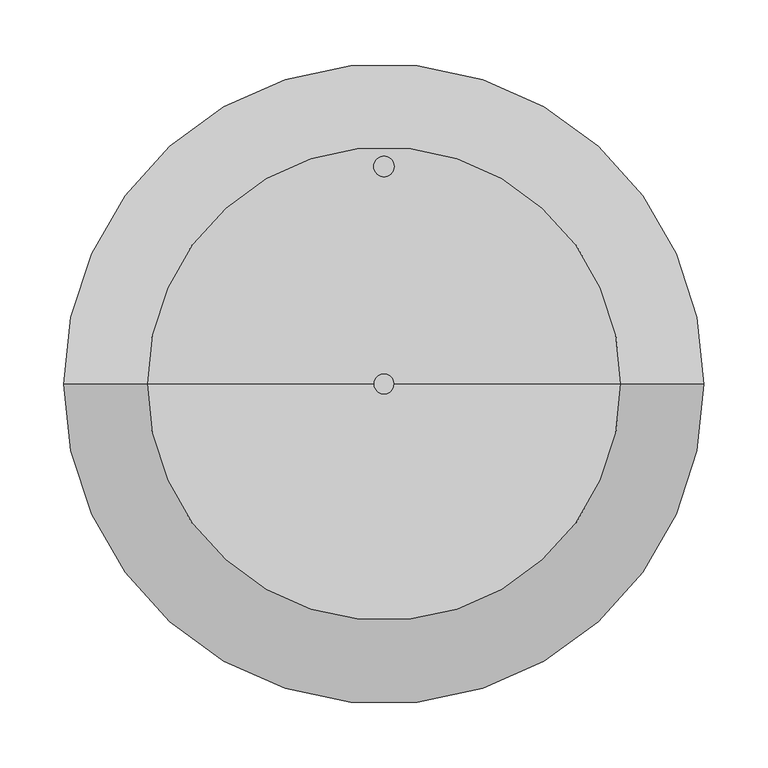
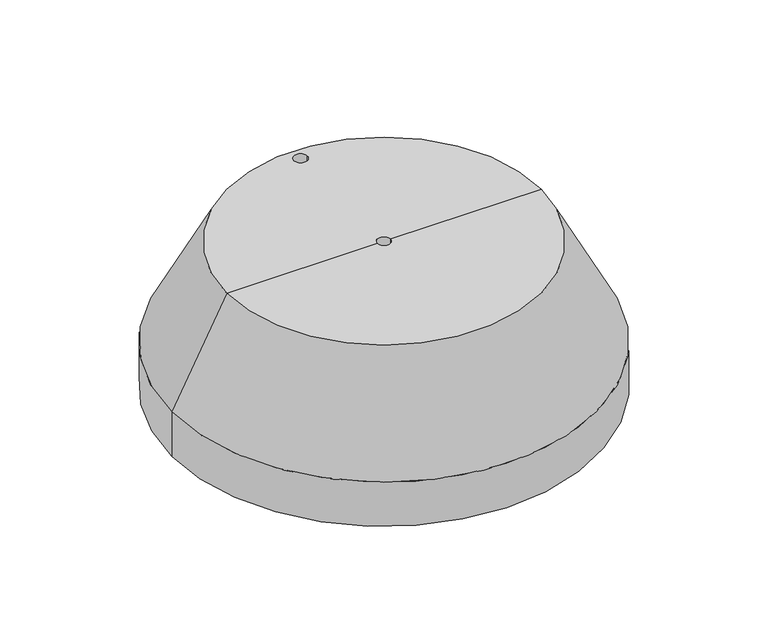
"""IFC4 building model written with IfcOpenShell, lengths in millimetres: proxy geometry, КНС_ОсновниеБетонное_DKC : NL0500_Бетон_40кг."""

from ifc_helpers import new_model, si_unit, frame, origin, origin_with_axes, place, context, project, spatial, polyline, circle_curve, source, transform, mapped, element, save
from ifc_brep_helpers import plane_surface, cylinder_surface, revolved_surface, advanced_brep


def security_devices_d693c095(model_context):
    return source(origin(), model_context, "Body", "AdvancedBrep", [
        advanced_brep(
        [(-250.0, 0.0, 55.0), (250.0, 0.0, 55.0), (250.0, 0.0, 0.0), (-250.0, 0.0, 0.0), (-185.0, 0.0, 180.0), (185.0, 0.0, 180.0), (-8.0, 0.0, 180.0), (8.0, 0.0, 180.0), (8.0, 170.0, 180.0), (-8.0, 170.0, 180.0), (0.0, 0.0, 0.0), (-8.0, 0.0, 55.0), (8.0, 0.0, 55.0), (-8.0, 170.0, 55.0), (8.0, 170.0, 55.0)],
        [
            (0, 1, circle_curve(frame((0.0, 0.0, 55.0), z_axis=(0.0, 0.0, -1.0), x_axis=(1.0, 0.0, 0.0)), 250.0)),
            (1, 2),
            (2, 3, circle_curve(origin_with_axes(), 250.0)),
            (3, 0),
            (1, 0, circle_curve(frame((0.0, 0.0, 55.0), z_axis=(0.0, 0.0, -1.0), x_axis=(1.0, 0.0, 0.0)), 250.0)),
            (3, 2, circle_curve(origin_with_axes(), 250.0)),
            (0, 4),
            (4, 5, circle_curve(frame((0.0, 0.0, 180.0), z_axis=(0.0, 0.0, -1.0), x_axis=(1.0, 0.0, 0.0)), 185.0)),
            (5, 1),
            (5, 4, circle_curve(frame((0.0, 0.0, 180.0), z_axis=(0.0, 0.0, -1.0), x_axis=(1.0, 0.0, 0.0)), 185.0)),
            (4, 6),
            (6, 7, circle_curve(frame((0.0, 0.0, 180.0), z_axis=(0.0, 0.0, -1.0), x_axis=(1.0, 0.0, 0.0)), 8.0)),
            (7, 5),
            (8, 9, circle_curve(frame((0.0, 170.0, 180.0), z_axis=(0.0, 0.0, -1.0), x_axis=(1.0, 0.0, 0.0)), 8.0)),
            (9, 8, circle_curve(frame((0.0, 170.0, 180.0), z_axis=(0.0, 0.0, -1.0), x_axis=(1.0, 0.0, 0.0)), 8.0)),
            (7, 6, circle_curve(frame((0.0, 0.0, 180.0), z_axis=(0.0, 0.0, -1.0), x_axis=(1.0, 0.0, 0.0)), 8.0)),
            (2, 10),
            (10, 3),
            (11, 12, circle_curve(frame((0.0, 0.0, 55.0), z_axis=(0.0, 0.0, 1.0), x_axis=(1.0, 0.0, 0.0)), 8.0)),
            (12, 11, circle_curve(frame((0.0, 0.0, 55.0), z_axis=(0.0, 0.0, 1.0), x_axis=(1.0, 0.0, 0.0)), 8.0)),
            (13, 14, circle_curve(frame((0.0, 170.0, 55.0), z_axis=(0.0, 0.0, 1.0), x_axis=(1.0, 0.0, 0.0)), 8.0)),
            (14, 13, circle_curve(frame((0.0, 170.0, 55.0), z_axis=(0.0, 0.0, 1.0), x_axis=(1.0, 0.0, 0.0)), 8.0)),
            (11, 6),
            (7, 12),
            (13, 9),
            (8, 14),
        ],
        [
            cylinder_surface(frame((0.0, 0.0, 2214.3150031), z_axis=(0.0, 0.0, 1.0), x_axis=(1.0, 0.0, 0.0)), 250.0),
            revolved_surface(polyline([(250.0, 0.0, 55.0), (185.0, 0.0, 180.0)]), (0.0, 0.0, 2214.3150031), (0.0, 0.0, 1.0)),
            plane_surface(frame((0.0, 0.0, 180.0), z_axis=(0.0, 0.0, 1.0), x_axis=(1.0, 0.0, 0.0))),
            plane_surface(frame((0.0, 0.0, 0.0), z_axis=(0.0, 0.0, -1.0), x_axis=(1.0, 0.0, 0.0))),
            plane_surface(frame((8.0, 0.0, 55.0), z_axis=(0.0, 0.0, 1.0), x_axis=(0.0, -1.0, 0.0))),
            revolved_surface(polyline([(8.0, 0.0, 180.0), (8.0, 0.0, 55.0)]), (0.0, 0.0, 55.0), (0.0, 0.0, 1.0)),
            revolved_surface(polyline([(8.0, 170.0, 180.0), (8.0, 170.0, 55.0)]), (0.0, 170.0, 0.0), (0.0, 0.0, 1.0)),
        ],
        [
            (0, [[1, 2, 3, 4]]),
            (0, [[-2, 5, -4, 6]]),
            (1, [[-1, 7, 8, 9]]),
            (1, [[-5, -9, 10, -7]]),
            (2, [[-8, 11, 12, 13], [14, 15]]),
            (2, [[-10, -13, 16, -11]]),
            (3, [[-3, 17, 18]]),
            (3, [[-6, -18, -17]]),
            (4, [[19, 20]]),
            (4, [[21, 22]]),
            (5, [[-19, 23, -16, 24]]),
            (5, [[-20, -24, -12, -23]]),
            (6, [[-21, 25, -14, 26]]),
            (6, [[-22, -26, -15, -25]]),
        ],
    ),
    ])


if __name__ == "__main__":
    model = new_model("IFC4")
    model_context = context("Model", 3, world=origin())
    ifc_project = project(units=[si_unit("LENGTHUNIT", "METRE", prefix="MILLI")], contexts=[model_context])
    site = spatial("IfcSite", under=ifc_project)
    building = spatial("IfcBuilding", under=site)
    placement = place(None, origin())
    security_devices_shape = security_devices_d693c095(model_context)
    element("IfcBuildingElementProxy", 1, Name="КНС_ОсновниеБетонное_DKC : NL0500_Бетон_40кг", ObjectType="КНС_ОсновниеБетонное_DKC : NL0500_Бетон_40кг", at=placement, inside=building, context=model_context, shape_type="MappedRepresentation", body=[
        mapped(security_devices_shape, transform((0.0, 0.0, 0.0), x_axis=(1.0, 0.0, 0.0), y_axis=(0.0, 1.0, 0.0), z_axis=(0.0, 0.0, 1.0))),
    ])
    save(model, "model.ifc")
